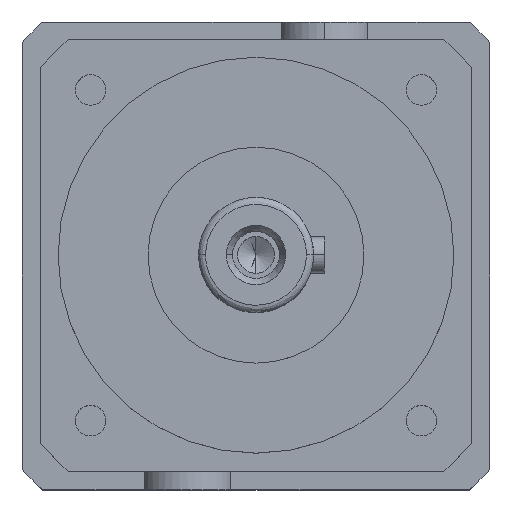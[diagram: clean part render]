
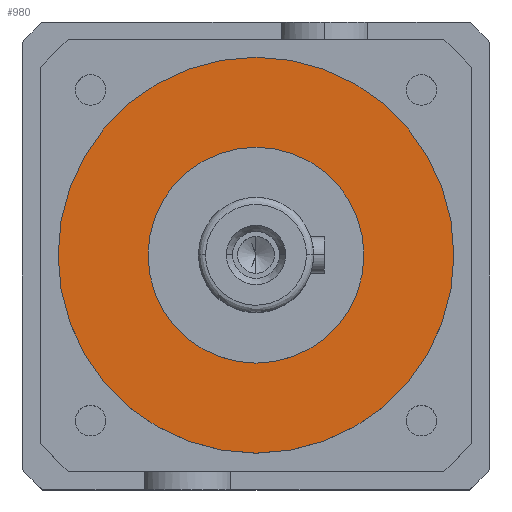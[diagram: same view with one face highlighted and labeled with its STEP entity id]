
A CAD part, top view. The second image highlights one B-rep face of the part: STEP entity #980.
In plain terms, the highlighted planar face has unit normal (0, 0, 1).
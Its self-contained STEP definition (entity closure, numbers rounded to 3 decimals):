
#266 = AXIS2_PLACEMENT_3D ( 'NONE', #23820, #3431, #27233 ) ;
#368 = DIRECTION ( 'NONE',  ( 1., 0., 0. ) ) ;
#980 = ADVANCED_FACE ( 'NONE', ( #10545, #19550 ), #8125, .F. ) ;
#3431 = DIRECTION ( 'NONE',  ( 0., 0., -1. ) ) ;
#4228 = VERTEX_POINT ( 'NONE', #25757 ) ;
#4259 = DIRECTION ( 'NONE',  ( 0., 0., 1. ) ) ;
#5346 = CIRCLE ( 'NONE', #18217, 30. ) ;
#6966 = EDGE_CURVE ( 'NONE', #21764, #26127, #29393, .T. ) ;
#8125 = PLANE ( 'NONE',  #9214 ) ;
#8417 = CARTESIAN_POINT ( 'NONE',  ( 0., 30., -52. ) ) ;
#8996 = DIRECTION ( 'NONE',  ( 0., 0., -1. ) ) ;
#9214 = AXIS2_PLACEMENT_3D ( 'NONE', #8417, #8996, #9227 ) ;
#9227 = DIRECTION ( 'NONE',  ( -1., 0., 0. ) ) ;
#9941 = EDGE_CURVE ( 'NONE', #20527, #4228, #5346, .T. ) ;
#10545 = FACE_OUTER_BOUND ( 'NONE', #19057, .T. ) ;
#12692 = CARTESIAN_POINT ( 'NONE',  ( -55., 0., -52. ) ) ;
#14126 = ORIENTED_EDGE ( 'NONE', *, *, #38244, .F. ) ;
#17690 = CARTESIAN_POINT ( 'NONE',  ( 0., 0., -52. ) ) ;
#18217 = AXIS2_PLACEMENT_3D ( 'NONE', #41127, #20718, #368 ) ;
#18598 = ORIENTED_EDGE ( 'NONE', *, *, #9941, .F. ) ;
#19057 = EDGE_LOOP ( 'NONE', ( #26356, #43547 ) ) ;
#19294 = CARTESIAN_POINT ( 'NONE',  ( 55., 0., -52. ) ) ;
#19550 = FACE_BOUND ( 'NONE', #43922, .T. ) ;
#20527 = VERTEX_POINT ( 'NONE', #32578 ) ;
#20718 = DIRECTION ( 'NONE',  ( 0., 0., 1. ) ) ;
#20927 = CIRCLE ( 'NONE', #40397, 55. ) ;
#21136 = DIRECTION ( 'NONE',  ( 1., 0., 0. ) ) ;
#21383 = CIRCLE ( 'NONE', #24170, 30. ) ;
#21764 = VERTEX_POINT ( 'NONE', #12692 ) ;
#23820 = CARTESIAN_POINT ( 'NONE',  ( 0., 0., -52. ) ) ;
#24170 = AXIS2_PLACEMENT_3D ( 'NONE', #24660, #4259, #28043 ) ;
#24660 = CARTESIAN_POINT ( 'NONE',  ( 0., 0., -52. ) ) ;
#25757 = CARTESIAN_POINT ( 'NONE',  ( 30., 0., -52. ) ) ;
#26127 = VERTEX_POINT ( 'NONE', #19294 ) ;
#26356 = ORIENTED_EDGE ( 'NONE', *, *, #37381, .F. ) ;
#27233 = DIRECTION ( 'NONE',  ( 1., 0., 0. ) ) ;
#28043 = DIRECTION ( 'NONE',  ( 1., 0., 0. ) ) ;
#29393 = CIRCLE ( 'NONE', #266, 55. ) ;
#32578 = CARTESIAN_POINT ( 'NONE',  ( -30., 0., -52. ) ) ;
#37381 = EDGE_CURVE ( 'NONE', #26127, #21764, #20927, .T. ) ;
#38244 = EDGE_CURVE ( 'NONE', #4228, #20527, #21383, .T. ) ;
#40397 = AXIS2_PLACEMENT_3D ( 'NONE', #17690, #41545, #21136 ) ;
#41127 = CARTESIAN_POINT ( 'NONE',  ( 0., 0., -52. ) ) ;
#41545 = DIRECTION ( 'NONE',  ( 0., 0., -1. ) ) ;
#43547 = ORIENTED_EDGE ( 'NONE', *, *, #6966, .F. ) ;
#43922 = EDGE_LOOP ( 'NONE', ( #14126, #18598 ) ) ;
